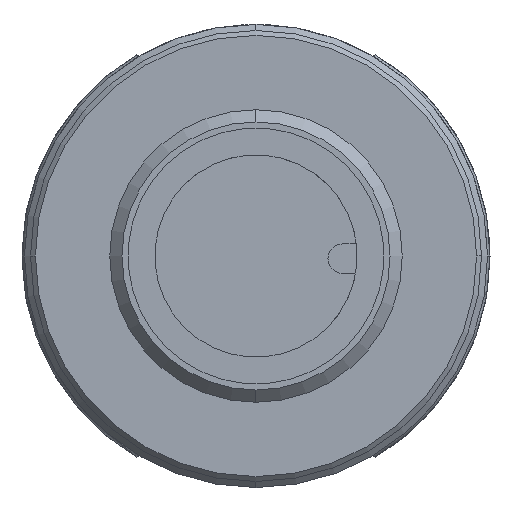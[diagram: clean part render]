
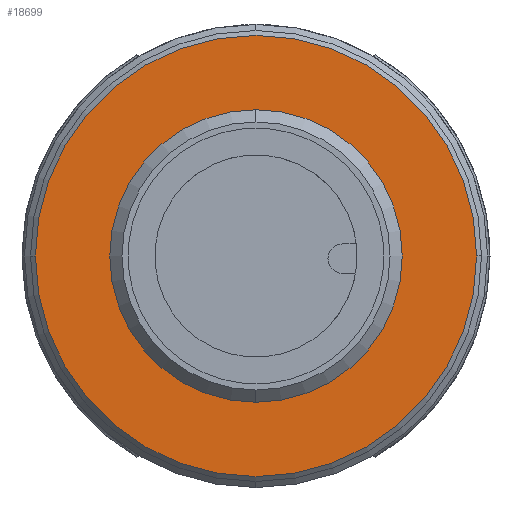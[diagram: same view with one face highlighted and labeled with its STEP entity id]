
A CAD part, left-side view. The second image highlights one B-rep face of the part: STEP entity #18699.
In plain terms, the highlighted planar face has unit normal (-1, 0, 0).
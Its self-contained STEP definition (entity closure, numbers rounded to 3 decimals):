
#513 = CARTESIAN_POINT ( 'NONE',  ( 61.279, 50., 0. ) ) ;
#922 = FACE_BOUND ( 'NONE', #24232, .T. ) ;
#2530 = DIRECTION ( 'NONE',  ( 0., 0., 1. ) ) ;
#2710 = DIRECTION ( 'NONE',  ( -1., 0., 0. ) ) ;
#3006 = EDGE_LOOP ( 'NONE', ( #25298, #23409 ) ) ;
#3649 = EDGE_CURVE ( 'NONE', #10395, #15292, #25358, .T. ) ;
#4062 = DIRECTION ( 'NONE',  ( -1., 0., 0. ) ) ;
#4737 = ORIENTED_EDGE ( 'NONE', *, *, #19261, .F. ) ;
#5634 = FACE_OUTER_BOUND ( 'NONE', #3006, .T. ) ;
#6883 = CARTESIAN_POINT ( 'NONE',  ( 61.279, 50., 0. ) ) ;
#7028 = CARTESIAN_POINT ( 'NONE',  ( 61.279, 50., 0. ) ) ;
#7186 = CIRCLE ( 'NONE', #9507, 9.05 ) ;
#7378 = VERTEX_POINT ( 'NONE', #23072 ) ;
#7851 = CIRCLE ( 'NONE', #15893, 6. ) ;
#8584 = CARTESIAN_POINT ( 'NONE',  ( 61.279, 40.95, 0. ) ) ;
#9056 = DIRECTION ( 'NONE',  ( 0., 0., 1. ) ) ;
#9507 = AXIS2_PLACEMENT_3D ( 'NONE', #513, #14673, #2530 ) ;
#10157 = ORIENTED_EDGE ( 'NONE', *, *, #12143, .F. ) ;
#10395 = VERTEX_POINT ( 'NONE', #10578 ) ;
#10578 = CARTESIAN_POINT ( 'NONE',  ( 61.279, 59.05, 0. ) ) ;
#10947 = PLANE ( 'NONE',  #25913 ) ;
#11309 = CARTESIAN_POINT ( 'NONE',  ( 61.279, 50., 0. ) ) ;
#11573 = CARTESIAN_POINT ( 'NONE',  ( 61.279, 50., 6. ) ) ;
#12143 = EDGE_CURVE ( 'NONE', #7378, #13537, #19244, .T. ) ;
#13352 = DIRECTION ( 'NONE',  ( 0., 0., 1. ) ) ;
#13537 = VERTEX_POINT ( 'NONE', #11573 ) ;
#14673 = DIRECTION ( 'NONE',  ( -1., 0., 0. ) ) ;
#15292 = VERTEX_POINT ( 'NONE', #8584 ) ;
#15893 = AXIS2_PLACEMENT_3D ( 'NONE', #11309, #25502, #13352 ) ;
#16226 = CARTESIAN_POINT ( 'NONE',  ( 61.279, 50., 0. ) ) ;
#16877 = AXIS2_PLACEMENT_3D ( 'NONE', #16226, #4062, #18273 ) ;
#18273 = DIRECTION ( 'NONE',  ( 0., 0., 1. ) ) ;
#18699 = ADVANCED_FACE ( 'NONE', ( #5634, #922 ), #10947, .T. ) ;
#18865 = AXIS2_PLACEMENT_3D ( 'NONE', #7028, #21235, #9056 ) ;
#19244 = CIRCLE ( 'NONE', #16877, 6. ) ;
#19261 = EDGE_CURVE ( 'NONE', #13537, #7378, #7851, .T. ) ;
#21137 = EDGE_CURVE ( 'NONE', #15292, #10395, #7186, .T. ) ;
#21235 = DIRECTION ( 'NONE',  ( -1., 0., 0. ) ) ;
#23072 = CARTESIAN_POINT ( 'NONE',  ( 61.279, 50., -6. ) ) ;
#23409 = ORIENTED_EDGE ( 'NONE', *, *, #21137, .T. ) ;
#24232 = EDGE_LOOP ( 'NONE', ( #4737, #10157 ) ) ;
#25159 = DIRECTION ( 'NONE',  ( 0., 0., 1. ) ) ;
#25298 = ORIENTED_EDGE ( 'NONE', *, *, #3649, .T. ) ;
#25358 = CIRCLE ( 'NONE', #18865, 9.05 ) ;
#25502 = DIRECTION ( 'NONE',  ( -1., 0., 0. ) ) ;
#25913 = AXIS2_PLACEMENT_3D ( 'NONE', #6883, #2710, #25159 ) ;
